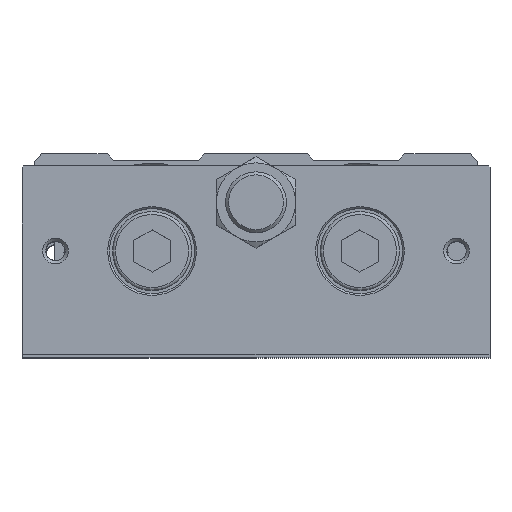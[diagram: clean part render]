
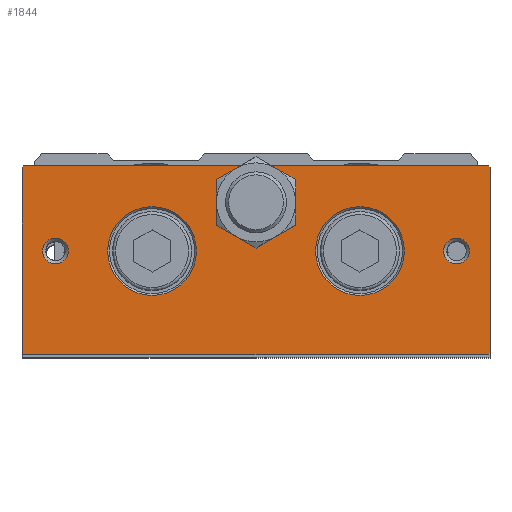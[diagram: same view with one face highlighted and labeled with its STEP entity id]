
A CAD part, top view. The second image highlights one B-rep face of the part: STEP entity #1844.
In plain terms, the highlighted planar face has unit normal (0, 0, 1).
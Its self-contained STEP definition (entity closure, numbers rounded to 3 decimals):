
#1642=CARTESIAN_POINT('',(-38.2,-17.5,204.0));
#1643=VERTEX_POINT('',#1642);
#1650=CARTESIAN_POINT('',(-38.5,-17.2,204.0));
#1651=VERTEX_POINT('',#1650);
#1652=CARTESIAN_POINT('',(-38.2,-17.5,204.0));
#1653=DIRECTION('',(-0.707,0.707,0.0));
#1654=VECTOR('',#1653,0.424);
#1655=LINE('',#1652,#1654);
#1656=EDGE_CURVE('',#1643,#1651,#1655,.T.);
#1667=CARTESIAN_POINT('',(0.0,-17.5,204.0));
#1668=DIRECTION('',(0.0,0.0,1.0));
#1669=DIRECTION('',(1.0,0.0,0.0));
#1670=AXIS2_PLACEMENT_3D('',#1667,#1668,#1669);
#1671=PLANE('',#1670);
#1672=ORIENTED_EDGE('',*,*,#1656,.F.);
#1673=CARTESIAN_POINT('',(38.2,-17.5,204.0));
#1674=VERTEX_POINT('',#1673);
#1675=CARTESIAN_POINT('',(-38.2,-17.5,204.0));
#1676=DIRECTION('',(1.0,0.0,0.0));
#1677=VECTOR('',#1676,76.4);
#1678=LINE('',#1675,#1677);
#1679=EDGE_CURVE('',#1643,#1674,#1678,.T.);
#1680=ORIENTED_EDGE('',*,*,#1679,.T.);
#1681=CARTESIAN_POINT('',(38.5,-17.2,204.0));
#1682=VERTEX_POINT('',#1681);
#1683=CARTESIAN_POINT('',(38.5,-17.2,204.0));
#1684=DIRECTION('',(-0.707,-0.707,0.0));
#1685=VECTOR('',#1684,0.424);
#1686=LINE('',#1683,#1685);
#1687=EDGE_CURVE('',#1682,#1674,#1686,.T.);
#1688=ORIENTED_EDGE('',*,*,#1687,.F.);
#1689=CARTESIAN_POINT('',(38.5,13.2,204.0));
#1690=VERTEX_POINT('',#1689);
#1691=CARTESIAN_POINT('',(38.5,-17.2,204.0));
#1692=DIRECTION('',(0.0,1.0,0.0));
#1693=VECTOR('',#1692,30.4);
#1694=LINE('',#1691,#1693);
#1695=EDGE_CURVE('',#1682,#1690,#1694,.T.);
#1696=ORIENTED_EDGE('',*,*,#1695,.T.);
#1697=CARTESIAN_POINT('',(38.2,13.5,204.0));
#1698=VERTEX_POINT('',#1697);
#1699=CARTESIAN_POINT('',(38.2,13.5,204.0));
#1700=DIRECTION('',(0.707,-0.707,0.0));
#1701=VECTOR('',#1700,0.424);
#1702=LINE('',#1699,#1701);
#1703=EDGE_CURVE('',#1698,#1690,#1702,.T.);
#1704=ORIENTED_EDGE('',*,*,#1703,.F.);
#1705=CARTESIAN_POINT('',(2.5,13.5,204.0));
#1706=VERTEX_POINT('',#1705);
#1707=CARTESIAN_POINT('',(38.2,13.5,204.0));
#1708=DIRECTION('',(-1.0,0.0,0.0));
#1709=VECTOR('',#1708,35.7);
#1710=LINE('',#1707,#1709);
#1711=EDGE_CURVE('',#1698,#1706,#1710,.T.);
#1712=ORIENTED_EDGE('',*,*,#1711,.T.);
#1713=CARTESIAN_POINT('',(3.25,13.129,204.0));
#1714=VERTEX_POINT('',#1713);
#1715=CARTESIAN_POINT('',(0.0,7.5,204.0));
#1716=DIRECTION('',(0.0,0.0,1.0));
#1717=DIRECTION('',(0.0,1.0,0.0));
#1718=AXIS2_PLACEMENT_3D('',#1715,#1716,#1717);
#1719=CIRCLE('',#1718,6.5);
#1720=EDGE_CURVE('',#1714,#1706,#1719,.T.);
#1721=ORIENTED_EDGE('',*,*,#1720,.F.);
#1722=CARTESIAN_POINT('',(6.5,7.5,204.0));
#1723=VERTEX_POINT('',#1722);
#1724=CARTESIAN_POINT('',(0.0,7.5,204.0));
#1725=DIRECTION('',(0.0,0.0,1.0));
#1726=DIRECTION('',(0.0,1.0,0.0));
#1727=AXIS2_PLACEMENT_3D('',#1724,#1725,#1726);
#1728=CIRCLE('',#1727,6.5);
#1729=EDGE_CURVE('',#1723,#1714,#1728,.T.);
#1730=ORIENTED_EDGE('',*,*,#1729,.F.);
#1731=CARTESIAN_POINT('',(3.25,1.871,204.0));
#1732=VERTEX_POINT('',#1731);
#1733=CARTESIAN_POINT('',(0.0,7.5,204.0));
#1734=DIRECTION('',(0.0,0.0,1.0));
#1735=DIRECTION('',(0.0,1.0,0.0));
#1736=AXIS2_PLACEMENT_3D('',#1733,#1734,#1735);
#1737=CIRCLE('',#1736,6.5);
#1738=EDGE_CURVE('',#1732,#1723,#1737,.T.);
#1739=ORIENTED_EDGE('',*,*,#1738,.F.);
#1740=CARTESIAN_POINT('',(-3.25,1.871,204.0));
#1741=VERTEX_POINT('',#1740);
#1742=CARTESIAN_POINT('',(0.0,7.5,204.0));
#1743=DIRECTION('',(0.0,0.0,1.0));
#1744=DIRECTION('',(0.0,1.0,0.0));
#1745=AXIS2_PLACEMENT_3D('',#1742,#1743,#1744);
#1746=CIRCLE('',#1745,6.5);
#1747=EDGE_CURVE('',#1741,#1732,#1746,.T.);
#1748=ORIENTED_EDGE('',*,*,#1747,.F.);
#1749=CARTESIAN_POINT('',(-6.5,7.5,204.0));
#1750=VERTEX_POINT('',#1749);
#1751=CARTESIAN_POINT('',(0.0,7.5,204.0));
#1752=DIRECTION('',(0.0,0.0,1.0));
#1753=DIRECTION('',(0.0,1.0,0.0));
#1754=AXIS2_PLACEMENT_3D('',#1751,#1752,#1753);
#1755=CIRCLE('',#1754,6.5);
#1756=EDGE_CURVE('',#1750,#1741,#1755,.T.);
#1757=ORIENTED_EDGE('',*,*,#1756,.F.);
#1758=CARTESIAN_POINT('',(-3.25,13.129,204.0));
#1759=VERTEX_POINT('',#1758);
#1760=CARTESIAN_POINT('',(0.0,7.5,204.0));
#1761=DIRECTION('',(0.0,0.0,1.0));
#1762=DIRECTION('',(0.0,1.0,0.0));
#1763=AXIS2_PLACEMENT_3D('',#1760,#1761,#1762);
#1764=CIRCLE('',#1763,6.5);
#1765=EDGE_CURVE('',#1759,#1750,#1764,.T.);
#1766=ORIENTED_EDGE('',*,*,#1765,.F.);
#1767=CARTESIAN_POINT('',(-2.5,13.5,204.0));
#1768=VERTEX_POINT('',#1767);
#1769=CARTESIAN_POINT('',(0.0,7.5,204.0));
#1770=DIRECTION('',(0.0,0.0,1.0));
#1771=DIRECTION('',(0.0,1.0,0.0));
#1772=AXIS2_PLACEMENT_3D('',#1769,#1770,#1771);
#1773=CIRCLE('',#1772,6.5);
#1774=EDGE_CURVE('',#1768,#1759,#1773,.T.);
#1775=ORIENTED_EDGE('',*,*,#1774,.F.);
#1776=CARTESIAN_POINT('',(-38.2,13.5,204.0));
#1777=VERTEX_POINT('',#1776);
#1778=CARTESIAN_POINT('',(-2.5,13.5,204.0));
#1779=DIRECTION('',(-1.0,0.0,0.0));
#1780=VECTOR('',#1779,35.7);
#1781=LINE('',#1778,#1780);
#1782=EDGE_CURVE('',#1768,#1777,#1781,.T.);
#1783=ORIENTED_EDGE('',*,*,#1782,.T.);
#1784=CARTESIAN_POINT('',(-38.5,13.2,204.0));
#1785=VERTEX_POINT('',#1784);
#1786=CARTESIAN_POINT('',(-38.5,13.2,204.0));
#1787=DIRECTION('',(0.707,0.707,0.0));
#1788=VECTOR('',#1787,0.424);
#1789=LINE('',#1786,#1788);
#1790=EDGE_CURVE('',#1785,#1777,#1789,.T.);
#1791=ORIENTED_EDGE('',*,*,#1790,.F.);
#1792=CARTESIAN_POINT('',(-38.5,13.2,204.0));
#1793=DIRECTION('',(0.0,-1.0,0.0));
#1794=VECTOR('',#1793,30.4);
#1795=LINE('',#1792,#1794);
#1796=EDGE_CURVE('',#1785,#1651,#1795,.T.);
#1797=ORIENTED_EDGE('',*,*,#1796,.T.);
#1798=EDGE_LOOP('',(#1672,#1680,#1688,#1696,#1704,#1712,#1721,#1730,#1739,#1748,#1757,#1766,#1775,#1783,#1791,#1797));
#1799=FACE_OUTER_BOUND('',#1798,.T.);
#1800=CARTESIAN_POINT('',(-9.8,-0.5,204.0));
#1801=VERTEX_POINT('',#1800);
#1802=CARTESIAN_POINT('',(-17.1,-0.5,204.0));
#1803=DIRECTION('',(0.0,0.0,1.0));
#1804=DIRECTION('',(-1.0,0.0,0.0));
#1805=AXIS2_PLACEMENT_3D('',#1802,#1803,#1804);
#1806=CIRCLE('',#1805,7.3);
#1807=EDGE_CURVE('',#1801,#1801,#1806,.T.);
#1808=ORIENTED_EDGE('',*,*,#1807,.F.);
#1809=EDGE_LOOP('',(#1808));
#1810=FACE_BOUND('',#1809,.T.);
#1811=CARTESIAN_POINT('',(35.121,-0.5,204.0));
#1812=VERTEX_POINT('',#1811);
#1813=CARTESIAN_POINT('',(33.0,-0.5,204.0));
#1814=DIRECTION('',(0.0,0.0,1.0));
#1815=DIRECTION('',(-1.0,0.0,0.0));
#1816=AXIS2_PLACEMENT_3D('',#1813,#1814,#1815);
#1817=CIRCLE('',#1816,2.121);
#1818=EDGE_CURVE('',#1812,#1812,#1817,.T.);
#1819=ORIENTED_EDGE('',*,*,#1818,.F.);
#1820=EDGE_LOOP('',(#1819));
#1821=FACE_BOUND('',#1820,.T.);
#1822=CARTESIAN_POINT('',(-30.879,-0.5,204.0));
#1823=VERTEX_POINT('',#1822);
#1824=CARTESIAN_POINT('',(-33.0,-0.5,204.0));
#1825=DIRECTION('',(0.0,0.0,1.0));
#1826=DIRECTION('',(-1.0,0.0,0.0));
#1827=AXIS2_PLACEMENT_3D('',#1824,#1825,#1826);
#1828=CIRCLE('',#1827,2.121);
#1829=EDGE_CURVE('',#1823,#1823,#1828,.T.);
#1830=ORIENTED_EDGE('',*,*,#1829,.F.);
#1831=EDGE_LOOP('',(#1830));
#1832=FACE_BOUND('',#1831,.T.);
#1833=CARTESIAN_POINT('',(24.4,-0.5,204.0));
#1834=VERTEX_POINT('',#1833);
#1835=CARTESIAN_POINT('',(17.1,-0.5,204.0));
#1836=DIRECTION('',(0.0,0.0,1.0));
#1837=DIRECTION('',(-1.0,0.0,0.0));
#1838=AXIS2_PLACEMENT_3D('',#1835,#1836,#1837);
#1839=CIRCLE('',#1838,7.3);
#1840=EDGE_CURVE('',#1834,#1834,#1839,.T.);
#1841=ORIENTED_EDGE('',*,*,#1840,.F.);
#1842=EDGE_LOOP('',(#1841));
#1843=FACE_BOUND('',#1842,.T.);
#1844=ADVANCED_FACE('',(#1799,#1810,#1821,#1832,#1843),#1671,.T.);
